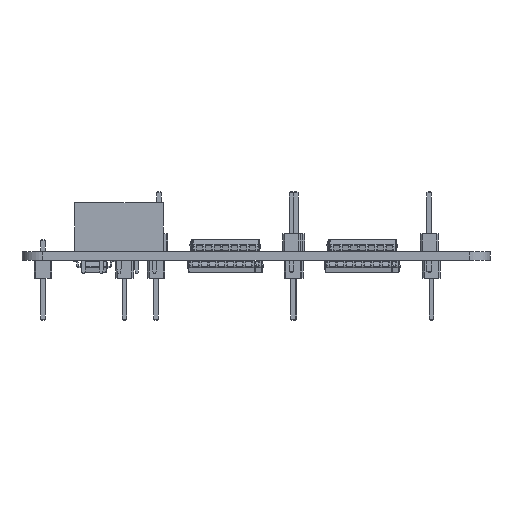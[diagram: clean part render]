
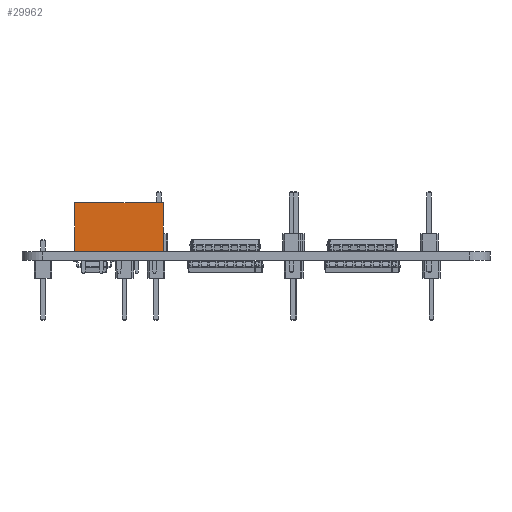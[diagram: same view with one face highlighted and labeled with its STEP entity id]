
A CAD part, front view. The second image highlights one B-rep face of the part: STEP entity #29962.
In plain terms, the highlighted planar face has unit normal (0, -1, 0) as drawn and (-1, 0, 0) by its records, which use the part's own axes.
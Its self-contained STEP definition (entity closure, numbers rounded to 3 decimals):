
#26156 = PLANE('',#26157);
#26157 = AXIS2_PLACEMENT_3D('',#26158,#26159,#26160);
#26158 = CARTESIAN_POINT('',(-3.81,-11.43,0.));
#26159 = DIRECTION('',(0.,1.,0.));
#26160 = DIRECTION('',(1.,0.,0.));
#26184 = PLANE('',#26185);
#26185 = AXIS2_PLACEMENT_3D('',#26186,#26187,#26188);
#26186 = CARTESIAN_POINT('',(1.27,-11.43,7.));
#26187 = DIRECTION('',(0.,0.,-1.));
#26188 = DIRECTION('',(0.,-1.,0.));
#26212 = PLANE('',#26213);
#26213 = AXIS2_PLACEMENT_3D('',#26214,#26215,#26216);
#26214 = CARTESIAN_POINT('',(1.27,1.27,0.));
#26215 = DIRECTION('',(0.,-1.,0.));
#26216 = DIRECTION('',(-1.,0.,0.));
#26254 = VERTEX_POINT('',#26255);
#26255 = CARTESIAN_POINT('',(-3.81,-11.43,0.));
#26271 = PLANE('',#26272);
#26272 = AXIS2_PLACEMENT_3D('',#26273,#26274,#26275);
#26273 = CARTESIAN_POINT('',(1.27,-11.43,0.));
#26274 = DIRECTION('',(0.,0.,-1.));
#26275 = DIRECTION('',(0.,-1.,0.));
#26283 = EDGE_CURVE('',#26254,#26284,#26286,.T.);
#26284 = VERTEX_POINT('',#26285);
#26285 = CARTESIAN_POINT('',(-3.81,-11.43,7.));
#26286 = SURFACE_CURVE('',#26287,(#26291,#26298),.PCURVE_S1.);
#26287 = LINE('',#26288,#26289);
#26288 = CARTESIAN_POINT('',(-3.81,-11.43,0.));
#26289 = VECTOR('',#26290,1.);
#26290 = DIRECTION('',(0.,0.,1.));
#26291 = PCURVE('',#26156,#26292);
#26292 = DEFINITIONAL_REPRESENTATION('',(#26293),#26297);
#26293 = LINE('',#26294,#26295);
#26294 = CARTESIAN_POINT('',(0.,0.));
#26295 = VECTOR('',#26296,1.);
#26296 = DIRECTION('',(0.,-1.));
#26297 = ( GEOMETRIC_REPRESENTATION_CONTEXT(2) 
PARAMETRIC_REPRESENTATION_CONTEXT() REPRESENTATION_CONTEXT('2D SPACE',''
  ) );
#26298 = PCURVE('',#26299,#26304);
#26299 = PLANE('',#26300);
#26300 = AXIS2_PLACEMENT_3D('',#26301,#26302,#26303);
#26301 = CARTESIAN_POINT('',(-3.81,1.27,0.));
#26302 = DIRECTION('',(1.,0.,0.));
#26303 = DIRECTION('',(0.,-1.,0.));
#26304 = DEFINITIONAL_REPRESENTATION('',(#26305),#26309);
#26305 = LINE('',#26306,#26307);
#26306 = CARTESIAN_POINT('',(12.7,0.));
#26307 = VECTOR('',#26308,1.);
#26308 = DIRECTION('',(0.,-1.));
#26309 = ( GEOMETRIC_REPRESENTATION_CONTEXT(2) 
PARAMETRIC_REPRESENTATION_CONTEXT() REPRESENTATION_CONTEXT('2D SPACE',''
  ) );
#26466 = VERTEX_POINT('',#26467);
#26467 = CARTESIAN_POINT('',(-3.81,1.27,7.));
#26488 = EDGE_CURVE('',#26489,#26466,#26491,.T.);
#26489 = VERTEX_POINT('',#26490);
#26490 = CARTESIAN_POINT('',(-3.81,1.27,0.));
#26491 = SURFACE_CURVE('',#26492,(#26496,#26503),.PCURVE_S1.);
#26492 = LINE('',#26493,#26494);
#26493 = CARTESIAN_POINT('',(-3.81,1.27,0.));
#26494 = VECTOR('',#26495,1.);
#26495 = DIRECTION('',(0.,0.,1.));
#26496 = PCURVE('',#26212,#26497);
#26497 = DEFINITIONAL_REPRESENTATION('',(#26498),#26502);
#26498 = LINE('',#26499,#26500);
#26499 = CARTESIAN_POINT('',(5.08,0.));
#26500 = VECTOR('',#26501,1.);
#26501 = DIRECTION('',(0.,-1.));
#26502 = ( GEOMETRIC_REPRESENTATION_CONTEXT(2) 
PARAMETRIC_REPRESENTATION_CONTEXT() REPRESENTATION_CONTEXT('2D SPACE',''
  ) );
#26503 = PCURVE('',#26299,#26504);
#26504 = DEFINITIONAL_REPRESENTATION('',(#26505),#26509);
#26505 = LINE('',#26506,#26507);
#26506 = CARTESIAN_POINT('',(0.,0.));
#26507 = VECTOR('',#26508,1.);
#26508 = DIRECTION('',(0.,-1.));
#26509 = ( GEOMETRIC_REPRESENTATION_CONTEXT(2) 
PARAMETRIC_REPRESENTATION_CONTEXT() REPRESENTATION_CONTEXT('2D SPACE',''
  ) );
#26633 = EDGE_CURVE('',#26466,#26284,#26634,.T.);
#26634 = SURFACE_CURVE('',#26635,(#26639,#26646),.PCURVE_S1.);
#26635 = LINE('',#26636,#26637);
#26636 = CARTESIAN_POINT('',(-3.81,1.27,7.));
#26637 = VECTOR('',#26638,1.);
#26638 = DIRECTION('',(0.,-1.,0.));
#26639 = PCURVE('',#26184,#26640);
#26640 = DEFINITIONAL_REPRESENTATION('',(#26641),#26645);
#26641 = LINE('',#26642,#26643);
#26642 = CARTESIAN_POINT('',(-12.7,5.08));
#26643 = VECTOR('',#26644,1.);
#26644 = DIRECTION('',(1.,0.));
#26645 = ( GEOMETRIC_REPRESENTATION_CONTEXT(2) 
PARAMETRIC_REPRESENTATION_CONTEXT() REPRESENTATION_CONTEXT('2D SPACE',''
  ) );
#26646 = PCURVE('',#26299,#26647);
#26647 = DEFINITIONAL_REPRESENTATION('',(#26648),#26652);
#26648 = LINE('',#26649,#26650);
#26649 = CARTESIAN_POINT('',(0.,-7.));
#26650 = VECTOR('',#26651,1.);
#26651 = DIRECTION('',(1.,0.));
#26652 = ( GEOMETRIC_REPRESENTATION_CONTEXT(2) 
PARAMETRIC_REPRESENTATION_CONTEXT() REPRESENTATION_CONTEXT('2D SPACE',''
  ) );
#27820 = EDGE_CURVE('',#26489,#26254,#27821,.T.);
#27821 = SURFACE_CURVE('',#27822,(#27826,#27833),.PCURVE_S1.);
#27822 = LINE('',#27823,#27824);
#27823 = CARTESIAN_POINT('',(-3.81,1.27,0.));
#27824 = VECTOR('',#27825,1.);
#27825 = DIRECTION('',(0.,-1.,0.));
#27826 = PCURVE('',#26271,#27827);
#27827 = DEFINITIONAL_REPRESENTATION('',(#27828),#27832);
#27828 = LINE('',#27829,#27830);
#27829 = CARTESIAN_POINT('',(-12.7,5.08));
#27830 = VECTOR('',#27831,1.);
#27831 = DIRECTION('',(1.,0.));
#27832 = ( GEOMETRIC_REPRESENTATION_CONTEXT(2) 
PARAMETRIC_REPRESENTATION_CONTEXT() REPRESENTATION_CONTEXT('2D SPACE',''
  ) );
#27833 = PCURVE('',#26299,#27834);
#27834 = DEFINITIONAL_REPRESENTATION('',(#27835),#27839);
#27835 = LINE('',#27836,#27837);
#27836 = CARTESIAN_POINT('',(0.,0.));
#27837 = VECTOR('',#27838,1.);
#27838 = DIRECTION('',(1.,0.));
#27839 = ( GEOMETRIC_REPRESENTATION_CONTEXT(2) 
PARAMETRIC_REPRESENTATION_CONTEXT() REPRESENTATION_CONTEXT('2D SPACE',''
  ) );
#29962 = ADVANCED_FACE('',(#29963),#26299,.F.);
#29963 = FACE_BOUND('',#29964,.F.);
#29964 = EDGE_LOOP('',(#29965,#29966,#29967,#29968));
#29965 = ORIENTED_EDGE('',*,*,#26488,.T.);
#29966 = ORIENTED_EDGE('',*,*,#26633,.T.);
#29967 = ORIENTED_EDGE('',*,*,#26283,.F.);
#29968 = ORIENTED_EDGE('',*,*,#27820,.F.);
